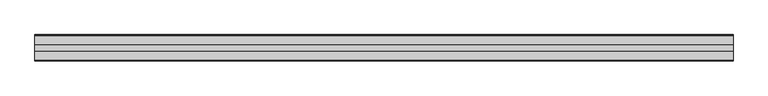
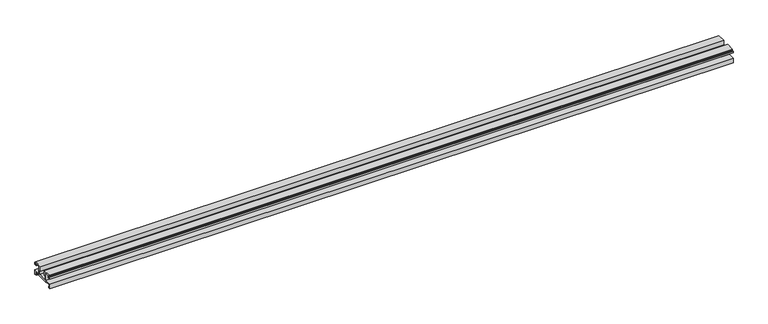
"""IFC4 building model written with IfcOpenShell, lengths in millimetres: proxy geometry, Weiku - Montante - Acoplamento vidro : Weiku - Montante - Acoplamento vidro."""

from ifc_helpers import new_model, si_unit, frame, origin, place, context, project, spatial, polyline, outline, extrude, source, transform, mapped, element, save


def generic_models_396a9d6f(model_context):
    return source(origin(), model_context, "Body", "SweptSolid", [
        extrude(outline(polyline([(-35.405, 5.1494), (-35.405, 6.8004), (-45.741, 6.8004), (-45.741, 2.6094), (-43.8784, 2.6094), (-43.8784, 0.0), (-47.9014508, 0.0), (-47.9014508, 8.79), (-34.946, 8.79), (-34.946, 23.3104), (-43.5397, 23.3104), (-43.5397, 19.204), (-47.9, 19.204), (-47.9, 22.8024), (-46.9264, 22.8024), (-46.9264, 20.3894), (-44.725, 20.3894), (-44.725, 23.9454), (-45.5264504, 23.9454), (-45.5264504, 25.3), (-30.4164, 25.3), (-30.4164, 16.283), (-32.4484, 16.283), (-32.4484, 8.8), (-15.4516, 8.8), (-15.4516, 16.283), (-17.4836, 16.283), (-17.4836, 25.3), (-2.3735496, 25.3), (-2.3735496, 23.9454), (-3.175, 23.9454), (-3.175, 20.3894), (-0.9736, 20.3894), (-0.9736, 22.8024), (0.0, 22.8024), (0.0, 19.204), (-4.3603, 19.204), (-4.3603, 23.3104), (-12.954, 23.3104), (-12.954, 8.79), (0.0014508, 8.79), (0.0014508, 0.0), (-4.0216, 0.0), (-4.0216, 2.6094), (-2.159, 2.6094), (-2.159, 6.8004), (-12.495, 6.8004), (-12.495, 5.1494), (-35.405, 5.1494)])), frame((-631.925, 0.0, 0.0), z_axis=(1.0, 0.0, 0.0), x_axis=(0.0, 1.0, 0.0)), (0.0, 0.0, 1.0), 1263.85),
    ])


if __name__ == "__main__":
    model = new_model("IFC4")
    model_context = context("Model", 3, world=origin())
    ifc_project = project(units=[si_unit("LENGTHUNIT", "METRE", prefix="MILLI")], contexts=[model_context])
    site = spatial("IfcSite", under=ifc_project)
    building = spatial("IfcBuilding", under=site)
    placement = place(None, origin())
    generic_models_shape = generic_models_396a9d6f(model_context)
    element("IfcBuildingElementProxy", 1, Name="Weiku - Montante - Acoplamento vidro : Weiku - Montante - Acoplamento vidro", ObjectType="Weiku - Montante - Acoplamento vidro : Weiku - Montante - Acoplamento vidro", at=placement, inside=building, context=model_context, shape_type="MappedRepresentation", body=[
        mapped(generic_models_shape, transform((0.0, 0.0, 0.0), x_axis=(1.0, 0.0, 0.0), y_axis=(0.0, 1.0, 0.0), z_axis=(0.0, 0.0, 1.0))),
    ])
    save(model, "model.ifc")
